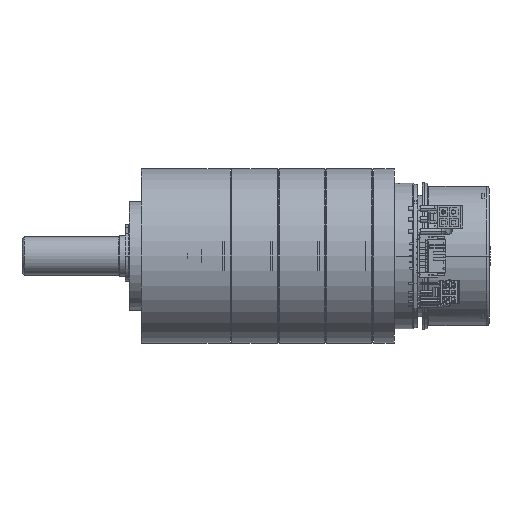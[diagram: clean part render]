
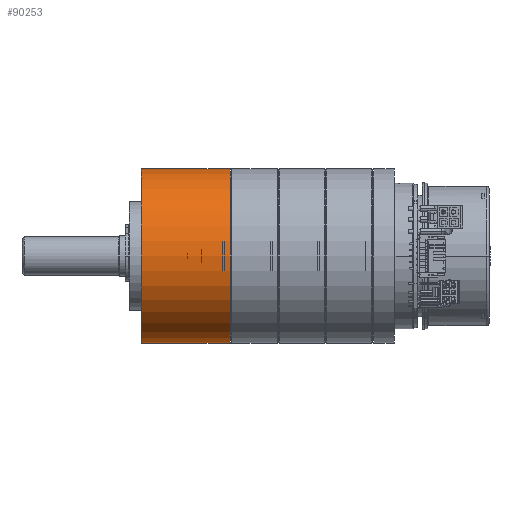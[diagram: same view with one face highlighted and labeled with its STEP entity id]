
A CAD part, front view. The second image highlights one B-rep face of the part: STEP entity #90253.
In plain terms, the highlighted cylindrical face has radius 36 mm (diameter 72 mm), a partial arc.
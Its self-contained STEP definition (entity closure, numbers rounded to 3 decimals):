
#3012 = EDGE_LOOP ( 'NONE', ( #97511, #55612, #99626, #74072 ) ) ;
#7163 = DIRECTION ( 'NONE',  ( 1., 0., 0. ) ) ;
#8171 = DIRECTION ( 'NONE',  ( 0., 0., -1. ) ) ;
#12736 = DIRECTION ( 'NONE',  ( 0., 0., -1. ) ) ;
#20491 = CARTESIAN_POINT ( 'NONE',  ( 33.6, 0., -36. ) ) ;
#24280 = DIRECTION ( 'NONE',  ( -1., 0., 0. ) ) ;
#25438 = CIRCLE ( 'NONE', #113239, 36. ) ;
#39835 = DIRECTION ( 'NONE',  ( 1., 0., 0. ) ) ;
#40771 = DIRECTION ( 'NONE',  ( 1., 0., 0. ) ) ;
#41487 = CARTESIAN_POINT ( 'NONE',  ( -5.08, 0., 0. ) ) ;
#45079 = VECTOR ( 'NONE', #7163, 1000. ) ;
#47511 = VERTEX_POINT ( 'NONE', #92090 ) ;
#51111 = CIRCLE ( 'NONE', #88032, 36. ) ;
#54944 = DIRECTION ( 'NONE',  ( 1., 0., 0. ) ) ;
#55612 = ORIENTED_EDGE ( 'NONE', *, *, #111151, .T. ) ;
#55822 = EDGE_CURVE ( 'NONE', #90004, #78377, #72999, .T. ) ;
#62132 = CARTESIAN_POINT ( 'NONE',  ( -5.08, 0., 36. ) ) ;
#63126 = FACE_OUTER_BOUND ( 'NONE', #3012, .T. ) ;
#72999 = LINE ( 'NONE', #62132, #45079 ) ;
#74072 = ORIENTED_EDGE ( 'NONE', *, *, #81575, .T. ) ;
#76617 = CARTESIAN_POINT ( 'NONE',  ( 33.6, 0., 36. ) ) ;
#78377 = VERTEX_POINT ( 'NONE', #76617 ) ;
#78718 = EDGE_CURVE ( 'NONE', #47511, #101922, #102832, .T. ) ;
#81575 = EDGE_CURVE ( 'NONE', #101922, #78377, #25438, .T. ) ;
#88032 = AXIS2_PLACEMENT_3D ( 'NONE', #109189, #54944, #88171 ) ;
#88171 = DIRECTION ( 'NONE',  ( 0., 0., -1. ) ) ;
#90004 = VERTEX_POINT ( 'NONE', #139572 ) ;
#90253 = ADVANCED_FACE ( 'NONE', ( #63126 ), #109447, .T. ) ;
#92090 = CARTESIAN_POINT ( 'NONE',  ( -3., 0., -36. ) ) ;
#97511 = ORIENTED_EDGE ( 'NONE', *, *, #55822, .F. ) ;
#99626 = ORIENTED_EDGE ( 'NONE', *, *, #78718, .T. ) ;
#101922 = VERTEX_POINT ( 'NONE', #20491 ) ;
#102832 = LINE ( 'NONE', #136120, #115915 ) ;
#109189 = CARTESIAN_POINT ( 'NONE',  ( -3., 0., 0. ) ) ;
#109447 = CYLINDRICAL_SURFACE ( 'NONE', #124157, 36. ) ;
#111151 = EDGE_CURVE ( 'NONE', #90004, #47511, #51111, .T. ) ;
#113239 = AXIS2_PLACEMENT_3D ( 'NONE', #122697, #24280, #12736 ) ;
#115915 = VECTOR ( 'NONE', #39835, 1000. ) ;
#122697 = CARTESIAN_POINT ( 'NONE',  ( 33.6, 0., 0. ) ) ;
#124157 = AXIS2_PLACEMENT_3D ( 'NONE', #41487, #40771, #8171 ) ;
#136120 = CARTESIAN_POINT ( 'NONE',  ( -5.08, 0., -36. ) ) ;
#139572 = CARTESIAN_POINT ( 'NONE',  ( -3., 0., 36. ) ) ;
